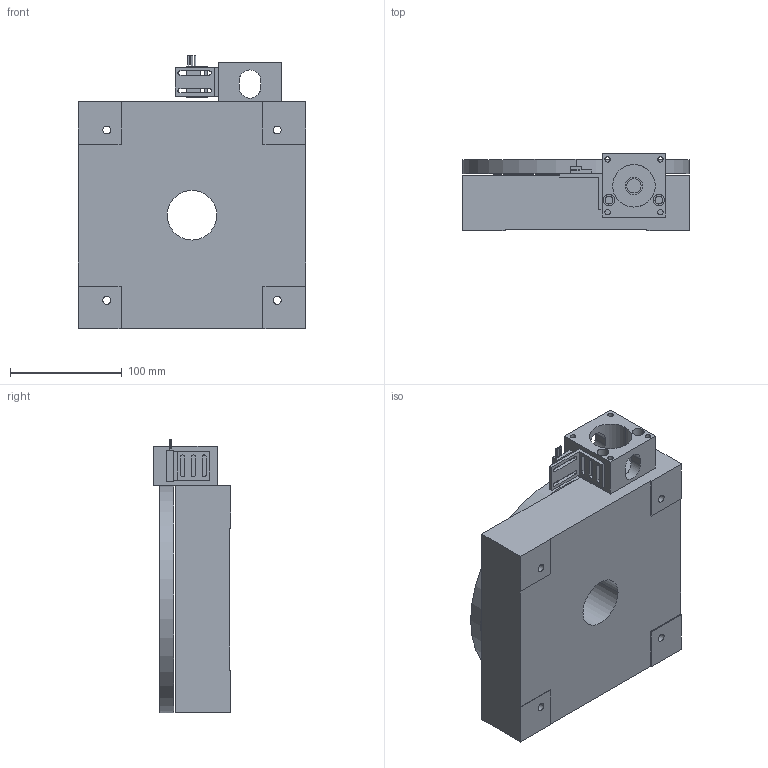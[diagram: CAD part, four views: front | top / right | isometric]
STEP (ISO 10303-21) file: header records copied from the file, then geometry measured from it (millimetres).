
FILE_DESCRIPTION((''),'2;1');
FILE_NAME('E208-ROTARY_ASM','2005-02-18T',('BF20108'),(''),'PRO/ENGINEER BY PARAMETRIC TECHNOLOGY CORPORATION, 2004400','PRO/ENGINEER BY PARAMETRIC TECHNOLOGY CORPORATION, 2004400','');
FILE_SCHEMA(('CONFIG_CONTROL_DESIGN'));
Products named in the file (7): E8RO-BASE; E8RO-TOP; E-0176-01; 000-4457-SW-BRKT; 003-1145-SWITCH; ROTARY-TBL-HOME-SW_ASM; E208-ROTARY_ASM
Assembly tree (6 placements, depth 3):
  E208-ROTARY_ASM
    E8RO-BASE
    E8RO-TOP
    E-0176-01
    ROTARY-TBL-HOME-SW_ASM
      000-4457-SW-BRKT
      003-1145-SWITCH
Bounding box: 203.2 x 69.09 x 244.69 mm (x, y, z)
Volume: 2367415.6 mm3; surface area: 232694.6 mm2
Topology: 5 solids, 5 shells, 158 faces, 415 edges, 276 vertices
Faces by surface type: cylinder 86, plane 72
Entity records: 5332 total; most frequent: CARTESIAN_POINT 964, DIRECTION 919, ORIENTED_EDGE 830, EDGE_CURVE 415, AXIS2_PLACEMENT_3D 341, VERTEX_POINT 276, VECTOR 237, LINE 237
